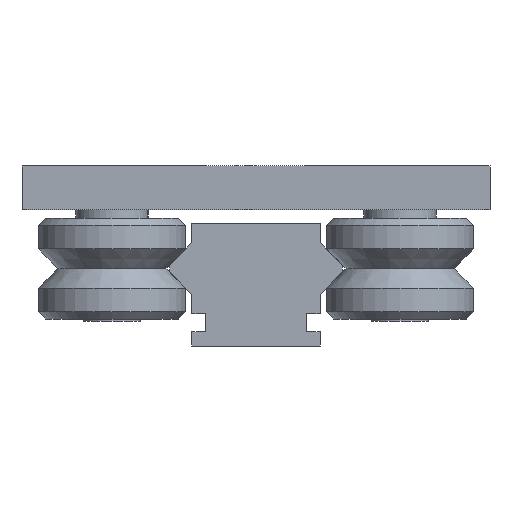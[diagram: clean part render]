
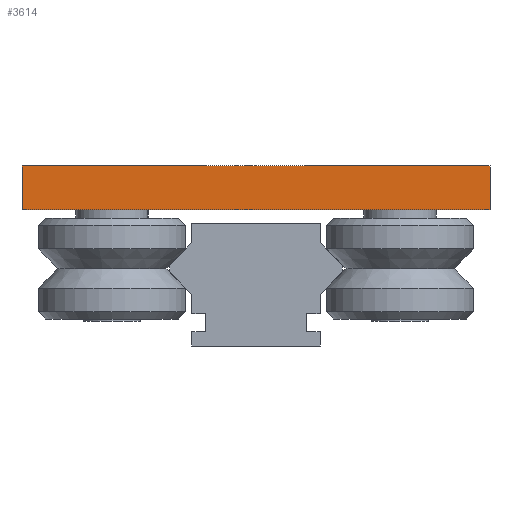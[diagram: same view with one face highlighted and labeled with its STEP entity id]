
A CAD part, left-side view. The second image highlights one B-rep face of the part: STEP entity #3614.
In plain terms, the highlighted planar face has unit normal (-1, 0, 0).
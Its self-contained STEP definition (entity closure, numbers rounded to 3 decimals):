
#3434=CARTESIAN_POINT('',(82.632,32.5,18.95));
#3435=VERTEX_POINT('',#3434);
#3442=CARTESIAN_POINT('',(82.632,32.5,25.0));
#3443=VERTEX_POINT('',#3442);
#3444=CARTESIAN_POINT('',(82.632,32.5,25.0));
#3445=DIRECTION('',(0.0,0.0,-1.0));
#3446=VECTOR('',#3445,6.05);
#3447=LINE('',#3444,#3446);
#3448=EDGE_CURVE('',#3443,#3435,#3447,.T.);
#3472=CARTESIAN_POINT('',(82.632,-32.5,18.95));
#3473=VERTEX_POINT('',#3472);
#3480=CARTESIAN_POINT('',(82.632,32.5,18.95));
#3481=DIRECTION('',(0.0,-1.0,0.0));
#3482=VECTOR('',#3481,65.0);
#3483=LINE('',#3480,#3482);
#3484=EDGE_CURVE('',#3435,#3473,#3483,.T.);
#3527=CARTESIAN_POINT('',(82.632,-32.5,25.0));
#3528=VERTEX_POINT('',#3527);
#3535=CARTESIAN_POINT('',(82.632,-32.5,18.95));
#3536=DIRECTION('',(0.0,0.0,1.0));
#3537=VECTOR('',#3536,6.05);
#3538=LINE('',#3535,#3537);
#3539=EDGE_CURVE('',#3473,#3528,#3538,.T.);
#3557=CARTESIAN_POINT('',(82.632,-32.5,25.0));
#3558=DIRECTION('',(0.0,1.0,0.0));
#3559=VECTOR('',#3558,65.0);
#3560=LINE('',#3557,#3559);
#3561=EDGE_CURVE('',#3528,#3443,#3560,.T.);
#3603=CARTESIAN_POINT('',(82.632,0.0,21.975));
#3604=DIRECTION('',(1.0,0.0,0.0));
#3605=DIRECTION('',(0.0,0.0,-1.0));
#3606=AXIS2_PLACEMENT_3D('',#3603,#3604,#3605);
#3607=PLANE('',#3606);
#3608=ORIENTED_EDGE('',*,*,#3561,.T.);
#3609=ORIENTED_EDGE('',*,*,#3448,.T.);
#3610=ORIENTED_EDGE('',*,*,#3484,.T.);
#3611=ORIENTED_EDGE('',*,*,#3539,.T.);
#3612=EDGE_LOOP('',(#3608,#3609,#3610,#3611));
#3613=FACE_OUTER_BOUND('',#3612,.T.);
#3614=ADVANCED_FACE('',(#3613),#3607,.F.);
